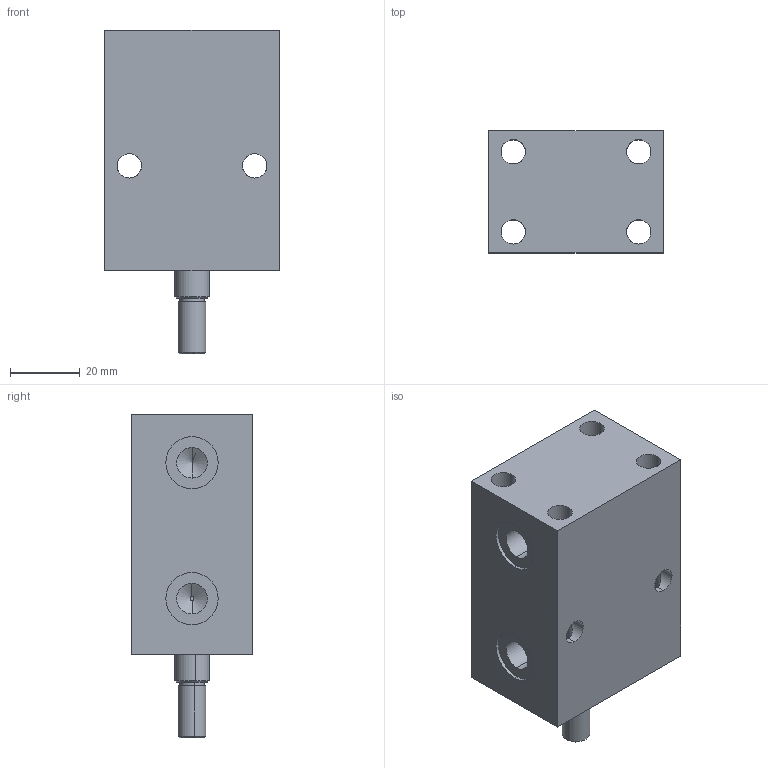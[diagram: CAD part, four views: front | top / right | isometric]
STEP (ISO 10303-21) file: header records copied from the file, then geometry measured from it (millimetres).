
FILE_DESCRIPTION (( 'STEP AP203' ), '1' );
FILE_NAME ('Block cylinder B01C-0025M.STEP', '2022-07-09T17:53:19', ( '' ), ( '' ), 'SwSTEP 2.0', 'SolidWorks 2017', '' );
FILE_SCHEMA (( 'CONFIG_CONTROL_DESIGN' ));
Length unit declared in the file: millimetre
Products named in the file (3): Body_0025M; Piston_0025M; Block cylinder B01C-0025M
Assembly tree (2 placements, depth 2):
  Block cylinder B01C-0025M
    Body_0025M
    Piston_0025M
Bounding box: 50 x 35 x 93 mm (x, y, z)
Volume: 106303.3 mm3; surface area: 26512.3 mm2
Topology: 2 solids, 2 shells, 370 faces, 1007 edges, 659 vertices
Faces by surface type: bspline 172, plane 144, cylinder 46, cone 8
Entity records: 18916 total; most frequent: CARTESIAN_POINT 10481, ORIENTED_EDGE 2010, DIRECTION 1097, EDGE_CURVE 1005, VERTEX_POINT 659, VECTOR 563, LINE 563, EDGE_LOOP 412
